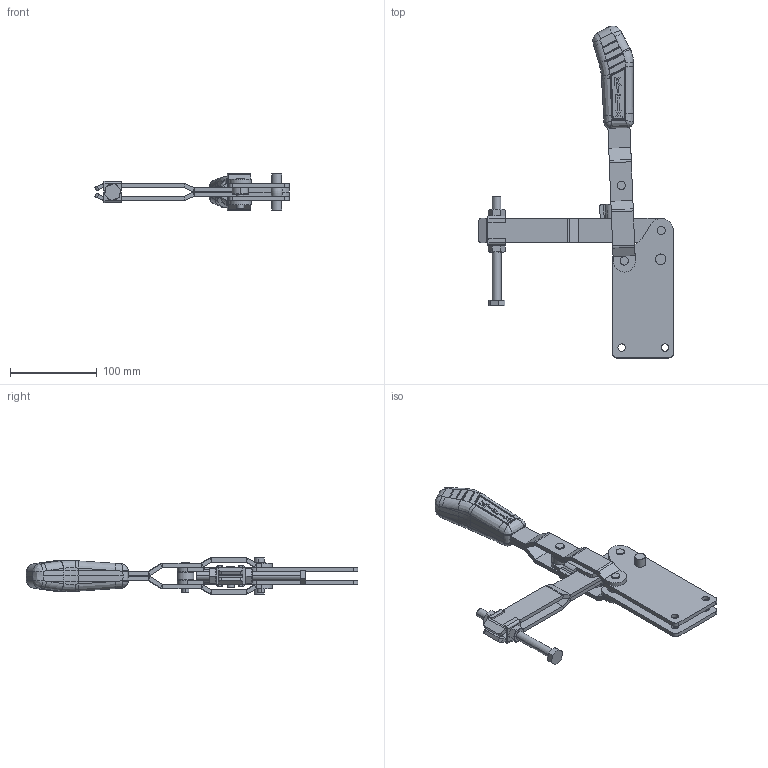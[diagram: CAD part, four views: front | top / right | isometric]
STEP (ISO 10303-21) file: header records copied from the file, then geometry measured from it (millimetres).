
FILE_DESCRIPTION (( 'STEP AP203' ), '1' );
FILE_NAME ('KF-641 RB.STEP', '2014-08-13T20:44:10', ( 'Ricardo' ), ( '' ), 'SwSTEP 2.0', 'SolidWorks 2013', '' );
FILE_SCHEMA (( 'CONFIG_CONTROL_DESIGN' ));
Length unit declared in the file: millimetre
Products named in the file (15): 16.20018; 05.20006; KF-641 RB; 3670000076; 02.11026; 3670000077; 01.10030; 14.10003; 03.13045; 11.50003; 03.13045_Esquerda; 12.50017; 08.10021_Direita; 07.60003; 08.10021_Esquerda
Assembly tree (21 placements, depth 2):
  KF-641 RB
    02.11026  x2
    01.10030  x2
    03.13045
    03.13045_Esquerda
    08.10021_Direita
    08.10021_Esquerda
    16.20018
    05.20006  x2
    3670000076  x2
    3670000077  x2
    14.10003  x2
    11.50003  x2
    12.50017
    07.60003
Bounding box: 224.28 x 382.63 x 41.6 mm (x, y, z)
Volume: 362814 mm3; surface area: 154198.3 mm2
Topology: 21 solids, 21 shells, 873 faces, 2105 edges, 1287 vertices
Faces by surface type: plane 365, cylinder 280, bspline 147, sphere 48, cone 28, torus 5
Entity records: 26395 total; most frequent: CARTESIAN_POINT 9139, ORIENTED_EDGE 3474, DIRECTION 2850, EDGE_CURVE 1737, AXIS2_PLACEMENT_3D 1092, VERTEX_POINT 1071, EDGE_LOOP 782, ADVANCED_FACE 717
